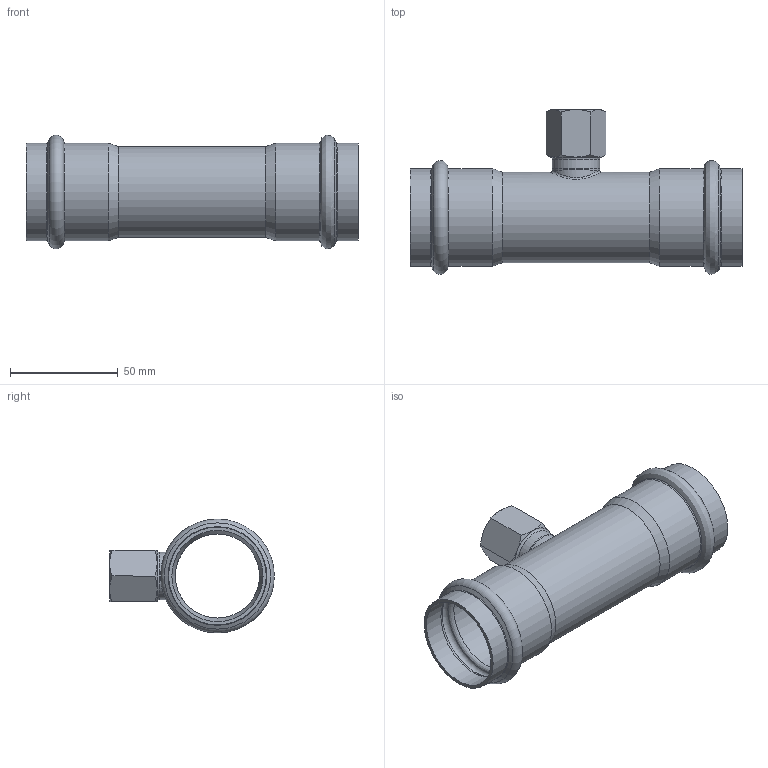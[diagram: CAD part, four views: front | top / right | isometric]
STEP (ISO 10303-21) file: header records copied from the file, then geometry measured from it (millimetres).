
FILE_DESCRIPTION((''),'2;1');
FILE_NAME('G:\Nirosan-Schmiedefeld\Technics\CAD\Bauteile VA\042\69130G421242(4).stp','2011-10-27T06:56:02',('herberg'),(''),'Autodesk Inventor 2009','Autodesk Inventor 2009','');
FILE_SCHEMA(('AUTOMOTIVE_DESIGN { 1 0 10303 214 1 1 1 1 }'));
Length unit declared in the file: millimetre
Products named in the file (3): 69130G421242(4); 691304222_LM(0); IG2212(1)
Assembly tree (2 placements, depth 2):
  69130G421242(4)
    691304222_LM(0)
    IG2212(1)
Bounding box: 154 x 76.4 x 52.8 mm (x, y, z)
Volume: 38046.9 mm3; surface area: 48196.4 mm2
Topology: 2 solids, 2 shells, 63 faces, 136 edges, 78 vertices
Faces by surface type: bspline 25, cone 17, plane 10, cylinder 9, torus 2
Full cylindrical faces by diameter (mm): 19 x1, 22 x2, 39 x1, 42 x1, 42.3 x2, 45.3 x2
Entity records: 3236 total; most frequent: CARTESIAN_POINT 2137, DIRECTION 200, ORIENTED_EDGE 178, EDGE_LOOP 108, AXIS2_PLACEMENT_3D 97, EDGE_CURVE 89, VERTEX_POINT 69, FACE_OUTER_BOUND 63
